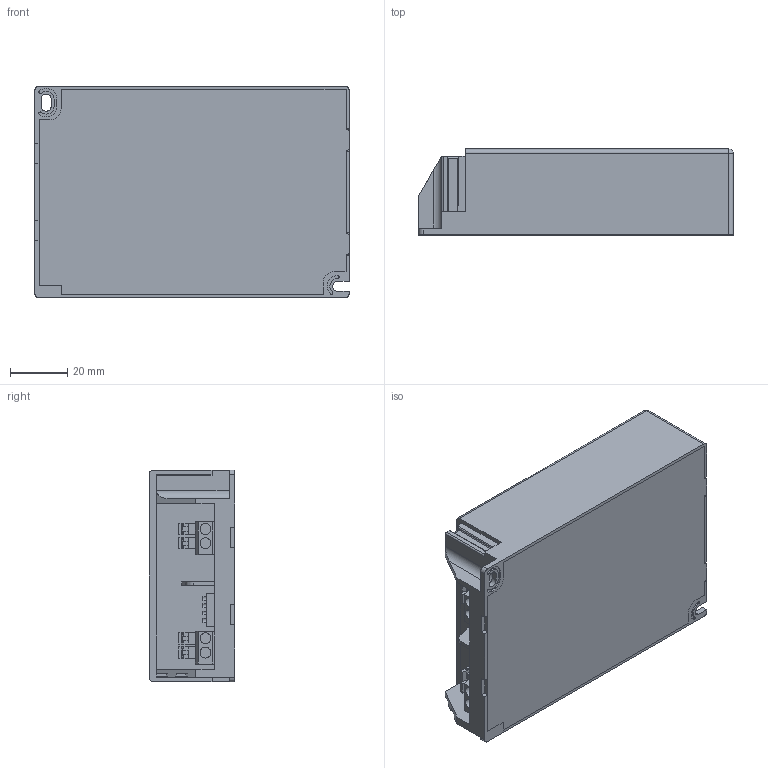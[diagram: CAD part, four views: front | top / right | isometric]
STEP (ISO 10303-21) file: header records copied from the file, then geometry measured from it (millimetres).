
FILE_DESCRIPTION((''),'2;1');
FILE_NAME('ZHUANGPEITU-60W_ASM','2022-02-28T',('tao.su'),(''),'PRO/ENGINEER BY PARAMETRIC TECHNOLOGY CORPORATION, 2010280','PRO/ENGINEER BY PARAMETRIC TECHNOLOGY CORPORATION, 2010280','');
FILE_SCHEMA(('CONFIG_CONTROL_DESIGN'));
Length unit declared in the file: millimetre
Products named in the file (8): BOTTOM-60W; TOP-60W; PCB; DUANZITAI-5; BOMA; PCB-60W-DALI2_ASM; DUANZITAI-1_2; ZHUANGPEITU-60W_ASM
Assembly tree (7 placements, depth 3):
  ZHUANGPEITU-60W_ASM
    BOTTOM-60W
    TOP-60W
    PCB-60W-DALI2_ASM
      PCB
      DUANZITAI-5
      BOMA
    DUANZITAI-1_2
Bounding box: 110 x 30 x 74 mm (x, y, z)
Volume: 46468 mm3; surface area: 72995.9 mm2
Topology: 6 solids, 6 shells, 589 faces, 1570 edges, 1030 vertices
Faces by surface type: plane 494, cylinder 69, extrusion 16, bspline 4, sphere 3, cone 2, torus 1
Entity records: 19127 total; most frequent: CARTESIAN_POINT 4248, ORIENTED_EDGE 3140, DIRECTION 2838, EDGE_CURVE 1570, VECTOR 1396, LINE 1380, VERTEX_POINT 1030, AXIS2_PLACEMENT_3D 721
